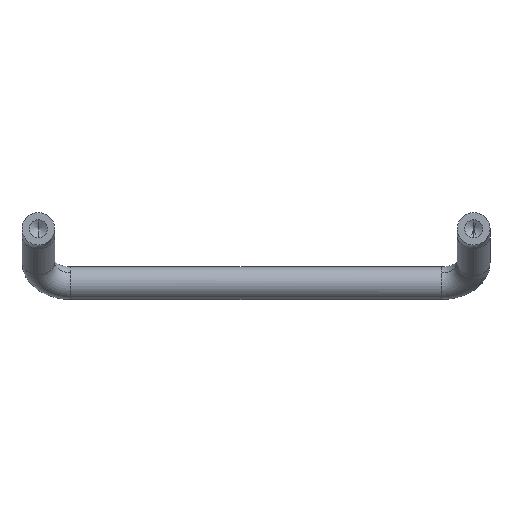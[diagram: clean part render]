
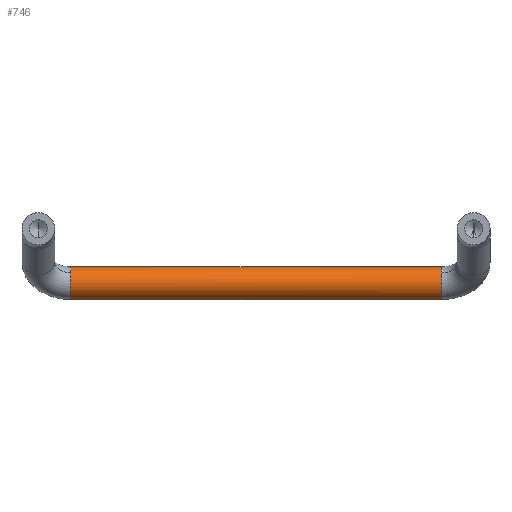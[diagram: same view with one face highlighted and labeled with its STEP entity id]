
A CAD part, front view. The second image highlights one B-rep face of the part: STEP entity #746.
In plain terms, the highlighted cylindrical face has radius 3 mm (diameter 6 mm), a partial arc.
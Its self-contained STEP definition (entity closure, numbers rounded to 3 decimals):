
#11 = EDGE_LOOP ( 'NONE', ( #656, #215, #783, #377, #839, #696 ) ) ;
#30 = LINE ( 'NONE', #596, #565 ) ;
#38 = CARTESIAN_POINT ( 'NONE',  ( -6., 27.5, -7. ) ) ;
#65 = EDGE_CURVE ( 'NONE', #468, #672, #30, .T. ) ;
#69 = CARTESIAN_POINT ( 'NONE',  ( -6., 27.5, -10. ) ) ;
#101 = DIRECTION ( 'NONE',  ( 0., 0., 1. ) ) ;
#135 = VERTEX_POINT ( 'NONE', #738 ) ;
#147 = DIRECTION ( 'NONE',  ( -1., 0., 0. ) ) ;
#159 = DIRECTION ( 'NONE',  ( -1., 0., 0. ) ) ;
#192 = EDGE_CURVE ( 'NONE', #221, #350, #207, .T. ) ;
#207 = CIRCLE ( 'NONE', #373, 3. ) ;
#211 = AXIS2_PLACEMENT_3D ( 'NONE', #692, #624, #279 ) ;
#215 = ORIENTED_EDGE ( 'NONE', *, *, #286, .T. ) ;
#221 = VERTEX_POINT ( 'NONE', #363 ) ;
#240 = DIRECTION ( 'NONE',  ( -1., 0., 0. ) ) ;
#267 = VECTOR ( 'NONE', #240, 1000. ) ;
#273 = CIRCLE ( 'NONE', #897, 3. ) ;
#279 = DIRECTION ( 'NONE',  ( 0., 0.625, 0.781 ) ) ;
#286 = EDGE_CURVE ( 'NONE', #468, #221, #303, .T. ) ;
#288 = CIRCLE ( 'NONE', #211, 3. ) ;
#303 = CIRCLE ( 'NONE', #417, 3. ) ;
#310 = LINE ( 'NONE', #587, #267 ) ;
#319 = EDGE_CURVE ( 'NONE', #135, #585, #273, .T. ) ;
#350 = VERTEX_POINT ( 'NONE', #38 ) ;
#354 = DIRECTION ( 'NONE',  ( 0., 0.625, 0.781 ) ) ;
#363 = CARTESIAN_POINT ( 'NONE',  ( -6., 25.157, -8.126 ) ) ;
#372 = CARTESIAN_POINT ( 'NONE',  ( -6., 27.5, -10. ) ) ;
#373 = AXIS2_PLACEMENT_3D ( 'NONE', #69, #147, #354 ) ;
#377 = ORIENTED_EDGE ( 'NONE', *, *, #768, .T. ) ;
#379 = DIRECTION ( 'NONE',  ( 0., 0.625, 0.781 ) ) ;
#417 = AXIS2_PLACEMENT_3D ( 'NONE', #869, #736, #379 ) ;
#468 = VERTEX_POINT ( 'NONE', #470 ) ;
#470 = CARTESIAN_POINT ( 'NONE',  ( -6., 27.5, -13. ) ) ;
#520 = CARTESIAN_POINT ( 'NONE',  ( -74., 27.5, -13. ) ) ;
#533 = DIRECTION ( 'NONE',  ( -1., 0., 0. ) ) ;
#538 = EDGE_CURVE ( 'NONE', #672, #135, #288, .T. ) ;
#565 = VECTOR ( 'NONE', #159, 1000. ) ;
#585 = VERTEX_POINT ( 'NONE', #837 ) ;
#587 = CARTESIAN_POINT ( 'NONE',  ( -6., 27.5, -7. ) ) ;
#596 = CARTESIAN_POINT ( 'NONE',  ( -6., 27.5, -13. ) ) ;
#599 = FACE_OUTER_BOUND ( 'NONE', #11, .T. ) ;
#624 = DIRECTION ( 'NONE',  ( -1., 0., 0. ) ) ;
#651 = DIRECTION ( 'NONE',  ( -1., 0., 0. ) ) ;
#656 = ORIENTED_EDGE ( 'NONE', *, *, #65, .F. ) ;
#672 = VERTEX_POINT ( 'NONE', #520 ) ;
#677 = AXIS2_PLACEMENT_3D ( 'NONE', #372, #651, #101 ) ;
#692 = CARTESIAN_POINT ( 'NONE',  ( -74., 27.5, -10. ) ) ;
#696 = ORIENTED_EDGE ( 'NONE', *, *, #538, .F. ) ;
#713 = CYLINDRICAL_SURFACE ( 'NONE', #677, 3. ) ;
#736 = DIRECTION ( 'NONE',  ( -1., 0., 0. ) ) ;
#738 = CARTESIAN_POINT ( 'NONE',  ( -74., 25.199, -8.075 ) ) ;
#740 = DIRECTION ( 'NONE',  ( 0., 0.625, 0.781 ) ) ;
#746 = ADVANCED_FACE ( 'NONE', ( #599 ), #713, .T. ) ;
#748 = CARTESIAN_POINT ( 'NONE',  ( -74., 27.5, -10. ) ) ;
#768 = EDGE_CURVE ( 'NONE', #350, #585, #310, .T. ) ;
#783 = ORIENTED_EDGE ( 'NONE', *, *, #192, .T. ) ;
#837 = CARTESIAN_POINT ( 'NONE',  ( -74., 27.5, -7. ) ) ;
#839 = ORIENTED_EDGE ( 'NONE', *, *, #319, .F. ) ;
#869 = CARTESIAN_POINT ( 'NONE',  ( -6., 27.5, -10. ) ) ;
#897 = AXIS2_PLACEMENT_3D ( 'NONE', #748, #533, #740 ) ;
